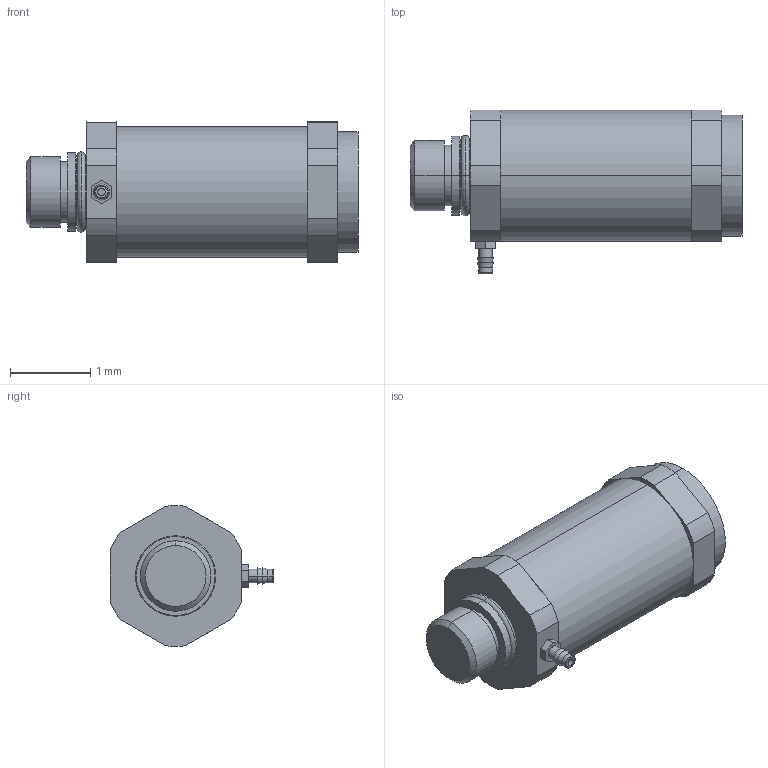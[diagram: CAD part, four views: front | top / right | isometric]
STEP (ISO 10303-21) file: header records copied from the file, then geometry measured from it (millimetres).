
FILE_DESCRIPTION((''),'2;1');
FILE_NAME('XF4.stp','2017-11-07T11:41:42',(''),(''),'Mechanical Desktop 2011','Mechanical Desktop 2011',', , ');
FILE_SCHEMA(('CONFIG_CONTROL_DESIGN'));
Length unit declared in the file: millimetre
Products named in the file (1): Product
Bounding box: 4.12 x 2.03 x 1.75 mm (x, y, z)
Volume: 7.5 mm3; surface area: 38.1 mm2
Topology: 6 solids, 6 shells, 77 faces, 170 edges, 110 vertices
Faces by surface type: plane 35, cylinder 30, torus 6, cone 6
Entity records: 2237 total; most frequent: DIRECTION 406, CARTESIAN_POINT 358, ORIENTED_EDGE 340, EDGE_CURVE 170, AXIS2_PLACEMENT_3D 158, VERTEX_POINT 110, VECTOR 90, LINE 90
